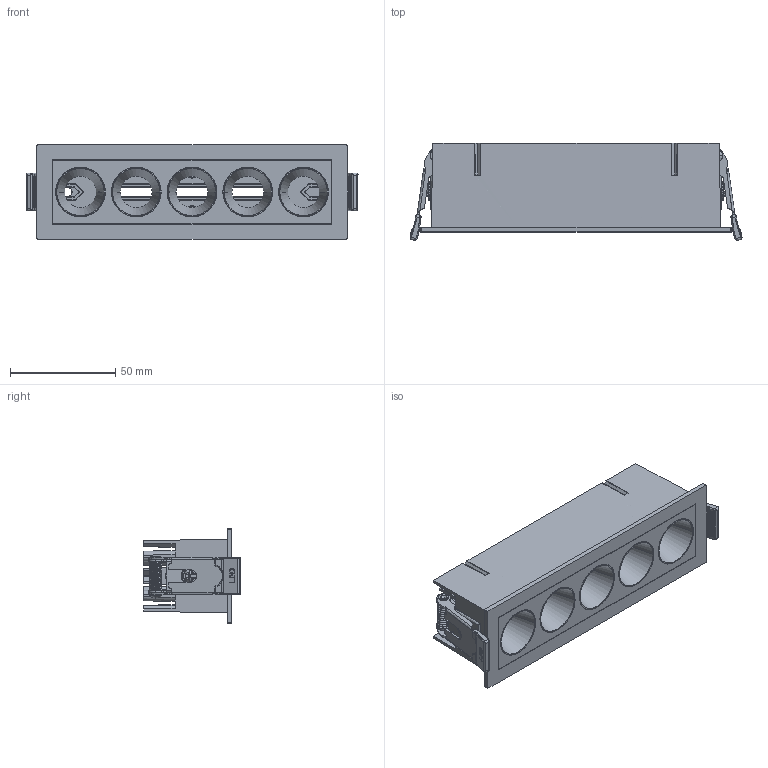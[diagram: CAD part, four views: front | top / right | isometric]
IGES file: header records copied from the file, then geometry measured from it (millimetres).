
Start section: SolidWorks IGES file using analytic representation for surfaces
Global section: file name: C:\Users\extension46\Desktop\3D-WEB\Invisible\Recessed\Recessed-5T.IGS; native system: SolidWorks 2023; preprocessor: SolidWorks 2023; author: y.wang; date: 240627.082520; units: millimetre
Bounding box: 157.75 x 46.09 x 45 mm (x, y, z)
Surface area: 57201.5 mm2 (no closed solid volume)
Topology: 0 solids, 0 shells, 877 faces, 8794 edges, 8784 vertices
Faces by surface type: bspline 511, revolution 366
